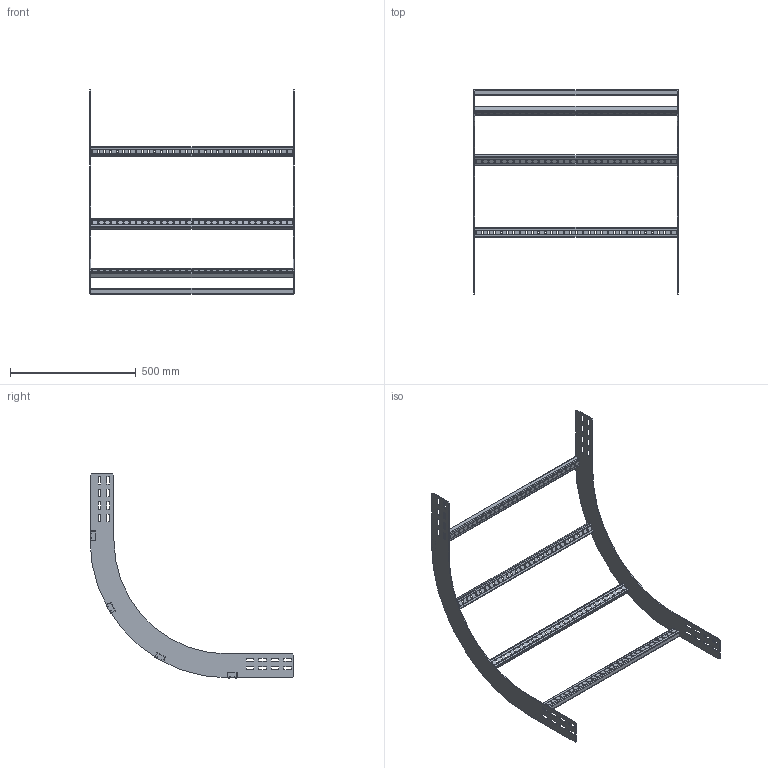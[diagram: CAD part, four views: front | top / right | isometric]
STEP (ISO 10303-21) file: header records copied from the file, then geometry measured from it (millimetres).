
FILE_DESCRIPTION(('Creo Elements/Direct Modeling STEP Export'),'2;1');
FILE_NAME('//pserver/office/EK/ME10-3D/3D-output/WPIR10-80-90-45.stp','2020-12-09T10:56:51',(''),(''),'PTC Creo Elements/Direct Modeling STEP processor for AP214 (Solid Model)','PTC Creo Elements/Direct Modeling 19.0C 15-Aug-2015 (C) Parametric Technology GmbH','');
FILE_SCHEMA(('AUTOMOTIVE_DESIGN { 1 0 10303 214 1 1 1 1 }'));
Length unit declared in the file: millimetre
Products named in the file (3): WPIBG100_450; WPSPF_080.1.1.1; WPIR10-80-90-45
Assembly tree (6 placements, depth 2):
  WPIR10-80-90-45
    WPSPF_080.1.1.1  x4
    WPIBG100_450  x2
Bounding box: 811 x 810 x 810.5 mm (x, y, z)
Volume: 1191965.7 mm3; surface area: 1156723.2 mm2
Topology: 6 solids, 6 shells, 844 faces, 2496 edges, 1664 vertices
Faces by surface type: plane 504, cylinder 340
Entity records: 8598 total; most frequent: CARTESIAN_POINT 1479, ORIENTED_EDGE 1476, DIRECTION 1413, EDGE_CURVE 738, VECTOR 561, LINE 561, VERTEX_POINT 492, AXIS2_PLACEMENT_3D 426
